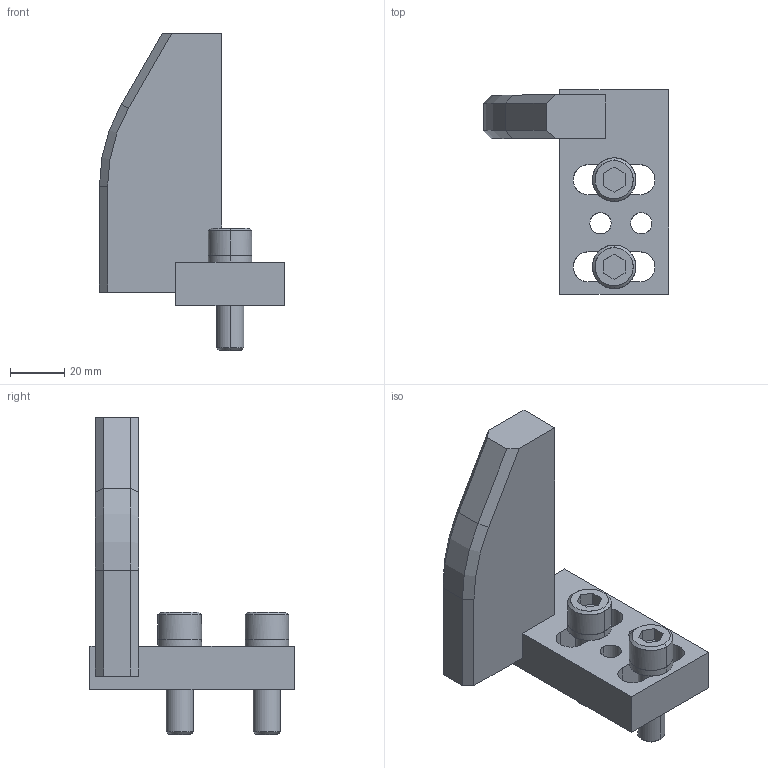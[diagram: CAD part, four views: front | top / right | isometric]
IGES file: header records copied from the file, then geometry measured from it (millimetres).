
Global section: file name: E:\UnigraphicsGraphicData\MISUMI_PRESS-PARTS\IGES\3d_ngwbr-100-40-s45-m10_01593_r00.igs; native system: NX V5.0; preprocessor: UGS NX IGES V5.0; author: MISUMI; date: 20110105.162114; units: millimetre
Bounding box: 68 x 75 x 116.5 mm (x, y, z)
Surface area: 28637.5 mm2 (no closed solid volume)
Topology: 0 solids, 0 shells, 104 faces, 666 edges, 666 vertices
Faces by surface type: bspline 104
